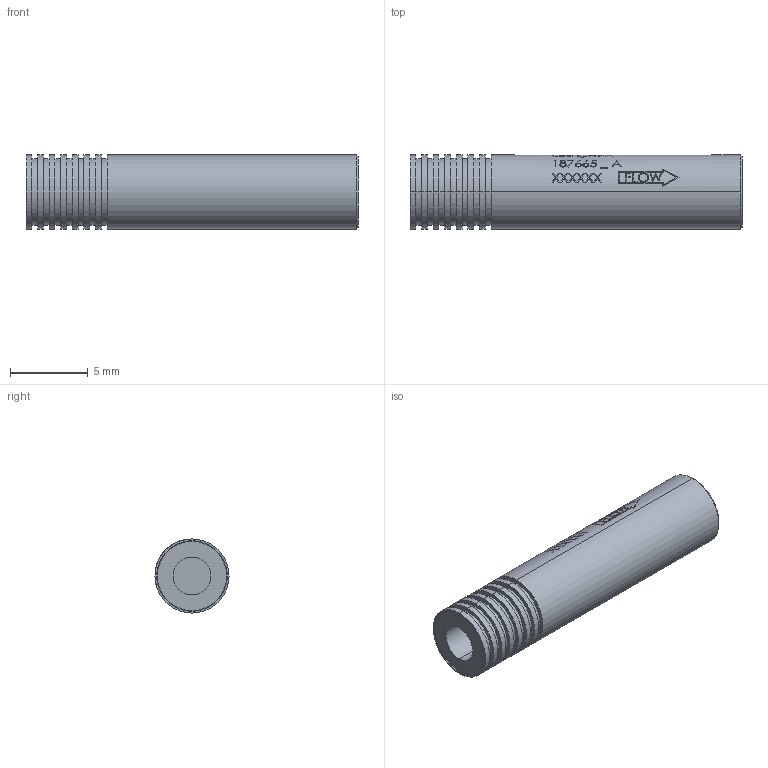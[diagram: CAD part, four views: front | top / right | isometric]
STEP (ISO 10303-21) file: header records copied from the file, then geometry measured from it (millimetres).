
FILE_DESCRIPTION (( 'STEP AP214' ), '1' );
FILE_NAME ('3DCHFA187665-A.STEP', '2021-03-31T11:53:26', ( '' ), ( '' ), 'SwSTEP 2.0', 'SolidWorks 2019', '' );
FILE_SCHEMA (( 'AUTOMOTIVE_DESIGN' ));
Length unit declared in the file: inch
Products named in the file (1): 3DCHFA187665-A
Bounding box: 21.34 x 4.76 x 4.76 mm (x, y, z)
Volume: 338.6 mm3; surface area: 459.3 mm2
Topology: 1 solids, 1 shells, 395 faces, 1019 edges, 678 vertices
Faces by surface type: bspline 162, plane 159, cylinder 70, cone 4
Entity records: 19275 total; most frequent: CARTESIAN_POINT 6664, ORIENTED_EDGE 2038, DIRECTION 1112, EDGE_CURVE 1019, VERTEX_POINT 678, B_SPLINE_CURVE_WITH_KNOTS 539, EDGE_LOOP 447, AXIS2_PLACEMENT_3D 398
